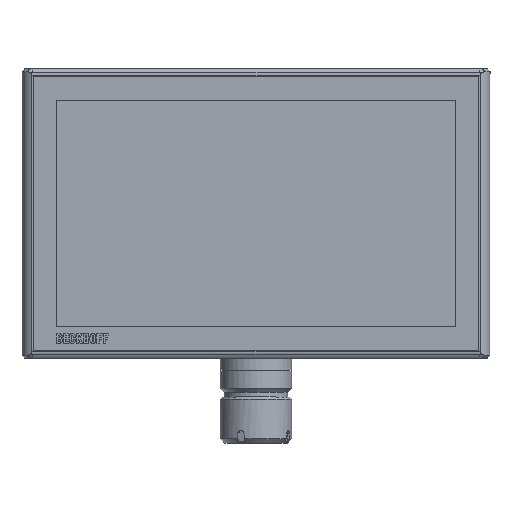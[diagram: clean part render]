
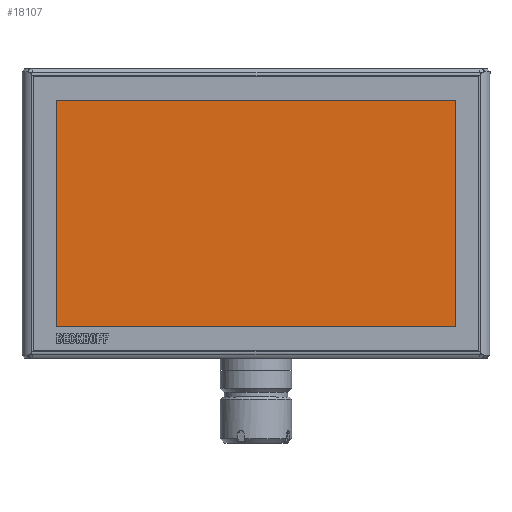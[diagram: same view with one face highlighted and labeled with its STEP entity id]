
A CAD part, top view. The second image highlights one B-rep face of the part: STEP entity #18107.
In plain terms, the highlighted planar face has unit normal (0, 0, 1).
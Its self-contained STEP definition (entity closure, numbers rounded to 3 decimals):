
#1590=FACE_OUTER_BOUND('',#2631,.T.);
#2631=EDGE_LOOP('',(#14341,#14342,#14343,#14344));
#4693=LINE('',#30943,#6314);
#4694=LINE('',#30945,#6315);
#4695=LINE('',#30947,#6316);
#4696=LINE('',#30948,#6317);
#6314=VECTOR('',#23231,195.5);
#6315=VECTOR('',#23232,346.);
#6316=VECTOR('',#23233,195.5);
#6317=VECTOR('',#23234,346.);
#7884=VERTEX_POINT('',#30941);
#7885=VERTEX_POINT('',#30942);
#7886=VERTEX_POINT('',#30944);
#7887=VERTEX_POINT('',#30946);
#10115=EDGE_CURVE('',#7884,#7885,#4693,.T.);
#10116=EDGE_CURVE('',#7886,#7884,#4694,.T.);
#10117=EDGE_CURVE('',#7887,#7886,#4695,.T.);
#10118=EDGE_CURVE('',#7885,#7887,#4696,.T.);
#14341=ORIENTED_EDGE('',*,*,#10115,.F.);
#14342=ORIENTED_EDGE('',*,*,#10116,.F.);
#14343=ORIENTED_EDGE('',*,*,#10117,.F.);
#14344=ORIENTED_EDGE('',*,*,#10118,.F.);
#16275=PLANE('',#19479);
#18107=ADVANCED_FACE('',(#1590),#16275,.T.);
#19479=AXIS2_PLACEMENT_3D('',#30940,#23229,#23230);
#23229=DIRECTION('center_axis',(0.,0.,
1.));
#23230=DIRECTION('ref_axis',(1.,0.,0.));
#23231=DIRECTION('',(0.,-1.,0.));
#23232=DIRECTION('',(1.,0.,0.));
#23233=DIRECTION('',(0.,1.,0.));
#23234=DIRECTION('',(-1.,0.,0.));
#30940=CARTESIAN_POINT('Origin',(60.096,255.353,84.377));
#30941=CARTESIAN_POINT('',(233.096,353.103,84.377));
#30942=CARTESIAN_POINT('',(233.096,157.603,84.377));
#30943=CARTESIAN_POINT('',(233.096,206.478,84.377));
#30944=CARTESIAN_POINT('',(-112.904,353.103,84.377));
#30945=CARTESIAN_POINT('',(146.596,353.103,84.377));
#30946=CARTESIAN_POINT('',(-112.904,157.603,84.377));
#30947=CARTESIAN_POINT('',(-112.904,304.228,84.377));
#30948=CARTESIAN_POINT('',(-26.404,157.603,84.377));
